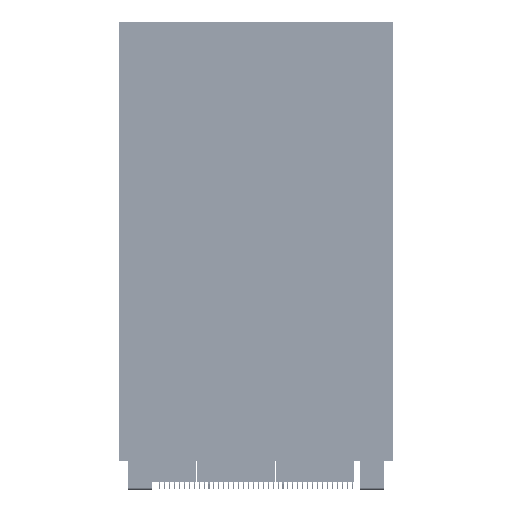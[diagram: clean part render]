
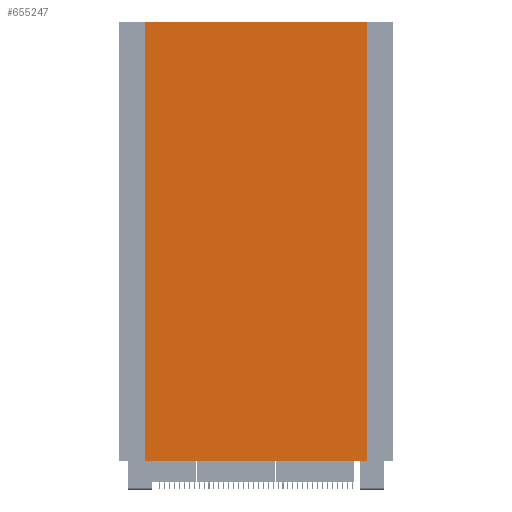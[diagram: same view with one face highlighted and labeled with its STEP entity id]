
A CAD part, front view. The second image highlights one B-rep face of the part: STEP entity #655247.
In plain terms, the highlighted planar face has unit normal (0, -1, 0).
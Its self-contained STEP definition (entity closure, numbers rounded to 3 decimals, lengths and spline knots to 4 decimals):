
#5470 = EDGE_LOOP ( 'NONE', ( #322037, #513923, #379565, #712491 ) ) ;
#13912 = EDGE_CURVE ( 'NONE', #723467, #521480, #635415, .T. ) ;
#15945 = AXIS2_PLACEMENT_3D ( 'NONE', #205128, #262432, #660713 ) ;
#38824 = LINE ( 'NONE', #229277, #172541 ) ;
#40990 = CARTESIAN_POINT ( 'NONE',  ( -1.5985, -0.755, 0. ) ) ;
#59823 = DIRECTION ( 'NONE',  ( -1., 0., 0. ) ) ;
#70332 = CARTESIAN_POINT ( 'NONE',  ( 0., -0.755, 0. ) ) ;
#74824 = EDGE_CURVE ( 'NONE', #577066, #590159, #38824, .T. ) ;
#111114 = VECTOR ( 'NONE', #625642, 39.3701 ) ;
#172541 = VECTOR ( 'NONE', #59823, 39.3701 ) ;
#181104 = VECTOR ( 'NONE', #526020, 39.3701 ) ;
#190096 = VECTOR ( 'NONE', #397722, 39.3701 ) ;
#205128 = CARTESIAN_POINT ( 'NONE',  ( 0., -0.755, -6.2992 ) ) ;
#221333 = CARTESIAN_POINT ( 'NONE',  ( 1.5985, -0.755, 0. ) ) ;
#229277 = CARTESIAN_POINT ( 'NONE',  ( 0., -0.755, -6.2992 ) ) ;
#244979 = CARTESIAN_POINT ( 'NONE',  ( 1.5985, -0.755, -6.2992 ) ) ;
#262432 = DIRECTION ( 'NONE',  ( 0., 1., 0. ) ) ;
#322037 = ORIENTED_EDGE ( 'NONE', *, *, #13912, .T. ) ;
#379565 = ORIENTED_EDGE ( 'NONE', *, *, #74824, .F. ) ;
#397722 = DIRECTION ( 'NONE',  ( 0., 0., 1. ) ) ;
#492987 = LINE ( 'NONE', #738855, #190096 ) ;
#513923 = ORIENTED_EDGE ( 'NONE', *, *, #735173, .F. ) ;
#521480 = VERTEX_POINT ( 'NONE', #40990 ) ;
#526020 = DIRECTION ( 'NONE',  ( -1., 0., 0. ) ) ;
#546219 = PLANE ( 'NONE',  #15945 ) ;
#568391 = CARTESIAN_POINT ( 'NONE',  ( 1.5985, -0.755, -6.2992 ) ) ;
#577066 = VERTEX_POINT ( 'NONE', #244979 ) ;
#590159 = VERTEX_POINT ( 'NONE', #724040 ) ;
#625642 = DIRECTION ( 'NONE',  ( 0., 0., 1. ) ) ;
#635415 = LINE ( 'NONE', #70332, #181104 ) ;
#655247 = ADVANCED_FACE ( 'NONE', ( #687123 ), #546219, .F. ) ;
#660713 = DIRECTION ( 'NONE',  ( -1., 0., 0. ) ) ;
#679323 = EDGE_CURVE ( 'NONE', #577066, #723467, #735040, .T. ) ;
#687123 = FACE_OUTER_BOUND ( 'NONE', #5470, .T. ) ;
#712491 = ORIENTED_EDGE ( 'NONE', *, *, #679323, .T. ) ;
#723467 = VERTEX_POINT ( 'NONE', #221333 ) ;
#724040 = CARTESIAN_POINT ( 'NONE',  ( -1.5985, -0.755, -6.2992 ) ) ;
#735040 = LINE ( 'NONE', #568391, #111114 ) ;
#735173 = EDGE_CURVE ( 'NONE', #590159, #521480, #492987, .T. ) ;
#738855 = CARTESIAN_POINT ( 'NONE',  ( -1.5985, -0.755, -6.2992 ) ) ;
